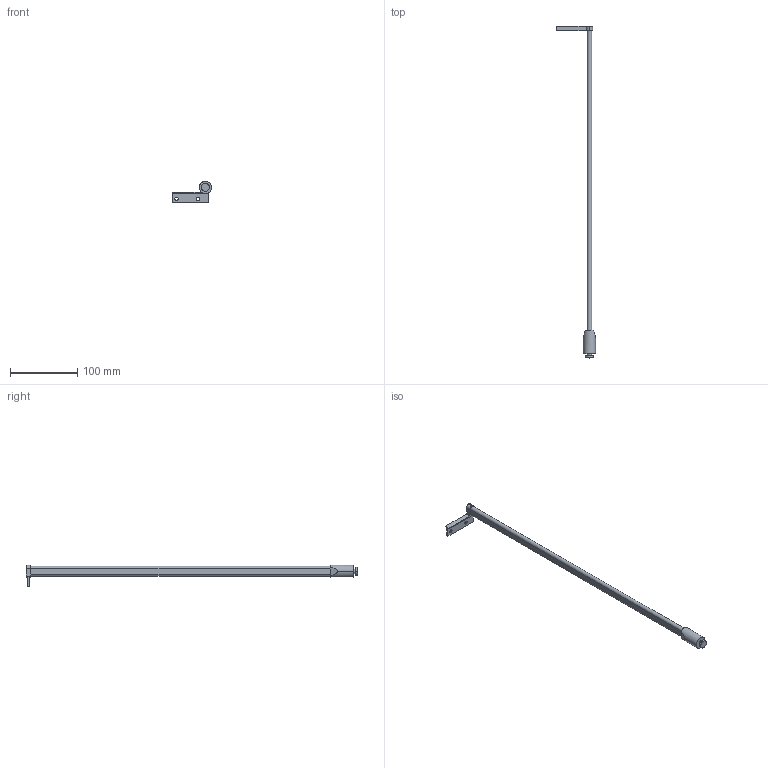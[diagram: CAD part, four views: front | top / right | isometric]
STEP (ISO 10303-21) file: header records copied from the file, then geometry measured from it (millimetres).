
FILE_DESCRIPTION (( 'STEP AP214' ), '1' );
FILE_NAME ('DWD-XP_Reling-Haengeregister_NL500_rechts.step', '2010-10-06T11:19:37', ( 'grass' ), ( '' ), 'SwSTEP 2.0', 'SolidWorks 2010', '' );
FILE_SCHEMA (( 'AUTOMOTIVE_DESIGN' ));
Length unit declared in the file: millimetre
Products named in the file (1): DWD-XP_Reling-Haengeregister_NL500_rechts
Bounding box: 58.1 x 494.3 x 32.15 mm (x, y, z)
Volume: 55323.5 mm3; surface area: 22633.4 mm2
Topology: 1 solids, 1 shells, 34 faces, 84 edges, 56 vertices
Faces by surface type: plane 20, cylinder 14
Entity records: 1058 total; most frequent: CARTESIAN_POINT 187, DIRECTION 178, ORIENTED_EDGE 168, EDGE_CURVE 84, AXIS2_PLACEMENT_3D 63, VERTEX_POINT 56, VECTOR 52, LINE 52
